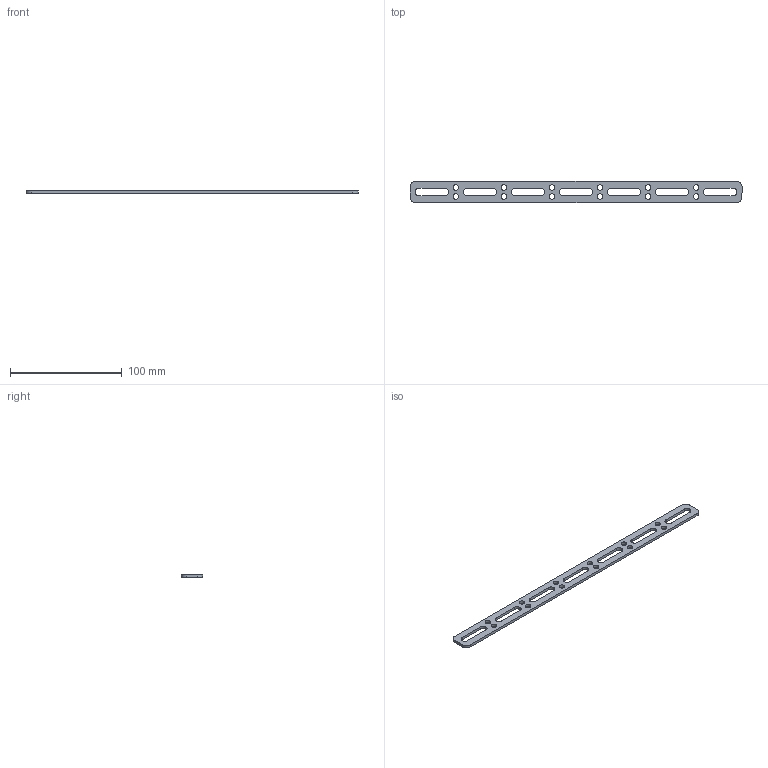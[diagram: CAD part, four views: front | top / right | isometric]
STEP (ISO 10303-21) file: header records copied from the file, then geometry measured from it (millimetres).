
FILE_DESCRIPTION (( 'STEP AP214' ), '1' );
FILE_NAME ('ECLISSE UF300.step', '2017-04-05T07:54:57', ( '' ), ( '' ), 'SwSTEP 2.0', 'SolidWorks 2015', '' );
FILE_SCHEMA (( 'AUTOMOTIVE_DESIGN' ));
Length unit declared in the file: millimetre
Products named in the file (1): ECLISSE UF300
Bounding box: 297 x 19 x 2.5 mm (x, y, z)
Volume: 9973.8 mm3; surface area: 11198.7 mm2
Topology: 1 solids, 1 shells, 69 faces, 201 edges, 134 vertices
Faces by surface type: cylinder 49, plane 20
Entity records: 2443 total; most frequent: DIRECTION 439, CARTESIAN_POINT 405, ORIENTED_EDGE 402, EDGE_CURVE 201, AXIS2_PLACEMENT_3D 168, VERTEX_POINT 134, EDGE_LOOP 107, VECTOR 103
